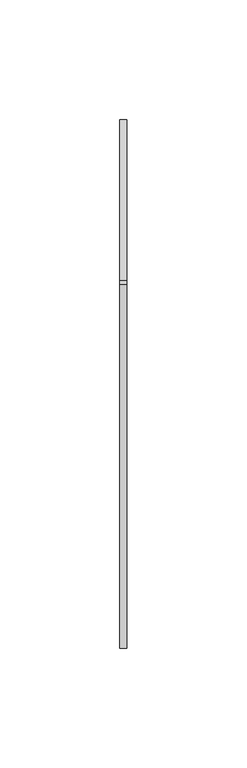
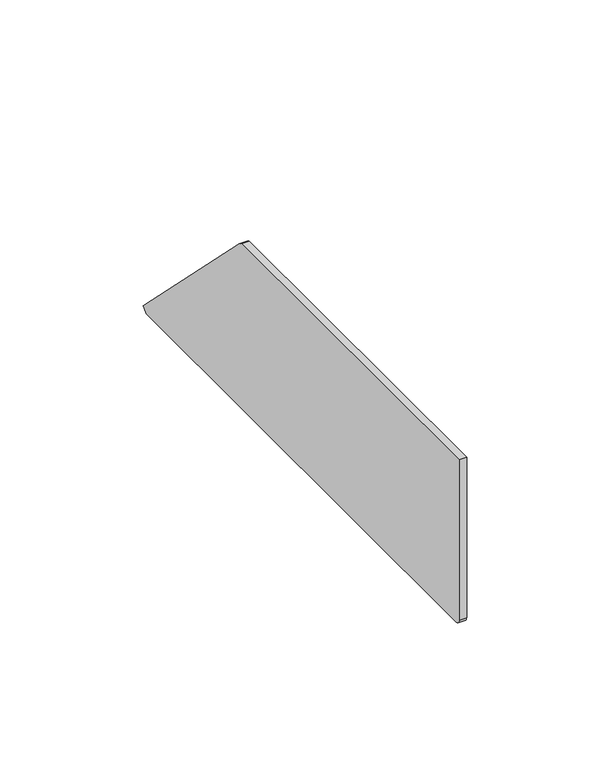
"""IFC4 building model written with IfcOpenShell, lengths in millimetres: cable carrier fitting geometry, Electrical_Installation_Hager_End-Piece : Electrical_Installation_Hager_End-Piece."""

from ifc_helpers import new_model, si_unit, point, frame, frame_2d, origin, place, context, project, spatial, polyline, circle_curve, trimmed, segment, composite_curve, outline, extrude, source, transform, mapped, element, save


def cable_carrier_fitting_c839ef92(model_context):
    return source(origin(), model_context, "Body", "SweptSolid", [
        extrude(outline(composite_curve([segment(polyline([(-75.0, -33.0), (-75.0, 35.5), (76.7124549, 35.5)]), True, "CONTINUOUS"), segment(trimmed(circle_curve(frame_2d((75.5004738, 31.6648514)), 4.0220969), [point((76.7124549, 35.5))], [point((78.5142136, 34.3284271))], False, "CARTESIAN"), True, "CONTINUOUS"), segment(polyline([(78.5142136, 34.3284271), (145.7213203, -32.8786797), (143.6, -35.0), (-73.0, -35.0)]), True, "CONTINUOUS"), segment(trimmed(circle_curve(frame_2d((-73.0, -33.0)), 2.0), [point((-73.0, -35.0))], [point((-75.0, -33.0))], False, "CARTESIAN"), True, "CONTINUOUS")], self_intersect=False)), frame((0.0, 0.0, 0.0), z_axis=(1.0, 0.0, 0.0), x_axis=(0.0, 1.0, 0.0)), (0.0, 0.0, 1.0), 3.0),
    ])


if __name__ == "__main__":
    model = new_model("IFC4")
    model_context = context("Model", 3, world=origin())
    ifc_project = project(units=[si_unit("LENGTHUNIT", "METRE", prefix="MILLI")], contexts=[model_context])
    site = spatial("IfcSite", under=ifc_project)
    building = spatial("IfcBuilding", under=site)
    placement = place(None, origin())
    cable_carrier_fitting_shape = cable_carrier_fitting_c839ef92(model_context)
    element("IfcCableCarrierFitting", 1, ObjectType="Electrical_Installation_Hager_End-Piece : Electrical_Installation_Hager_End-Piece", at=placement, inside=building, context=model_context, shape_type="MappedRepresentation", body=[
        mapped(cable_carrier_fitting_shape, transform((0.0, 0.0, 0.0), x_axis=(1.0, 0.0, 0.0), y_axis=(0.0, 1.0, 0.0), z_axis=(0.0, 0.0, 1.0))),
    ])
    save(model, "model.ifc")
